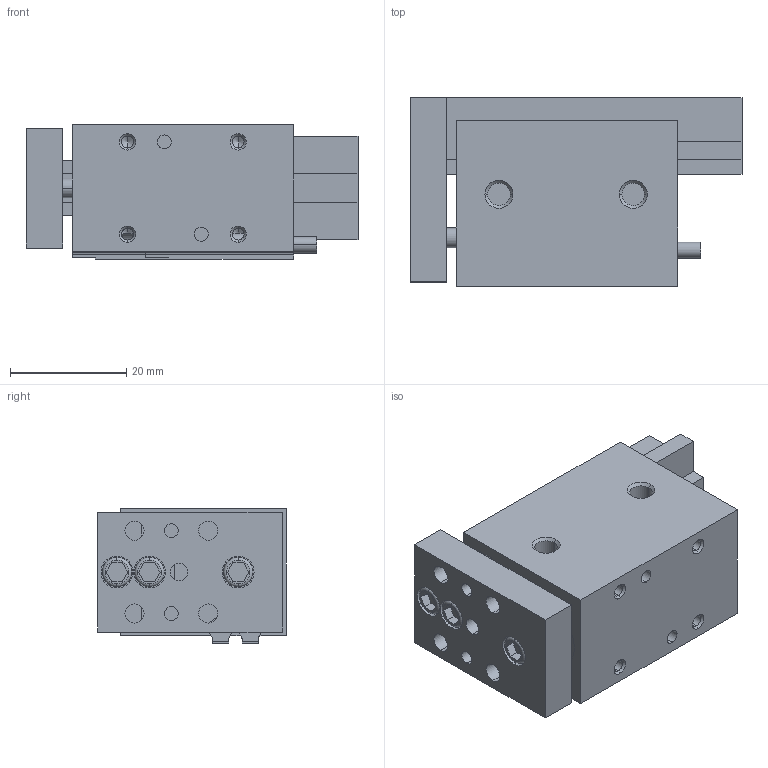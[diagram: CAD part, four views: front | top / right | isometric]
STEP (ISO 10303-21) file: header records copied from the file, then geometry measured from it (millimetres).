
FILE_DESCRIPTION (( 'STEP AP203' ), '1' );
FILE_NAME ('AGMS-1-1 RETACTED in IN.STEP', '2014-11-06T14:55:28', ( 'setup' ), ( '' ), 'SwSTEP 2.0', 'SolidWorks 2013', '' );
FILE_SCHEMA (( 'CONFIG_CONTROL_DESIGN' ));
Length unit declared in the file: inch
Products named in the file (7): AGMS-1-1 CUSHION; AGMS-1-1 RAIL; AGMS-1-1 TOOL PLATE; AGMS-1-1 PROD; AGMS-1-1 SENSOR; AGMS-1-1 RETACTED in IN; AGMS-1-1 BODY
Assembly tree (7 placements, depth 2):
  AGMS-1-1 RETACTED in IN
    AGMS-1-1 BODY
    AGMS-1-1 CUSHION
    AGMS-1-1 RAIL
    AGMS-1-1 TOOL PLATE
    AGMS-1-1 PROD
    AGMS-1-1 SENSOR  x2
Bounding box: 57.15 x 32.49 x 23.2 mm (x, y, z)
Volume: 29759.5 mm3; surface area: 15279.5 mm2
Topology: 7 solids, 7 shells, 293 faces, 679 edges, 428 vertices
Faces by surface type: plane 127, cylinder 112, cone 46, torus 8
Entity records: 8436 total; most frequent: CARTESIAN_POINT 1399, DIRECTION 1397, ORIENTED_EDGE 1212, EDGE_CURVE 606, AXIS2_PLACEMENT_3D 526, VERTEX_POINT 388, VECTOR 345, LINE 345
